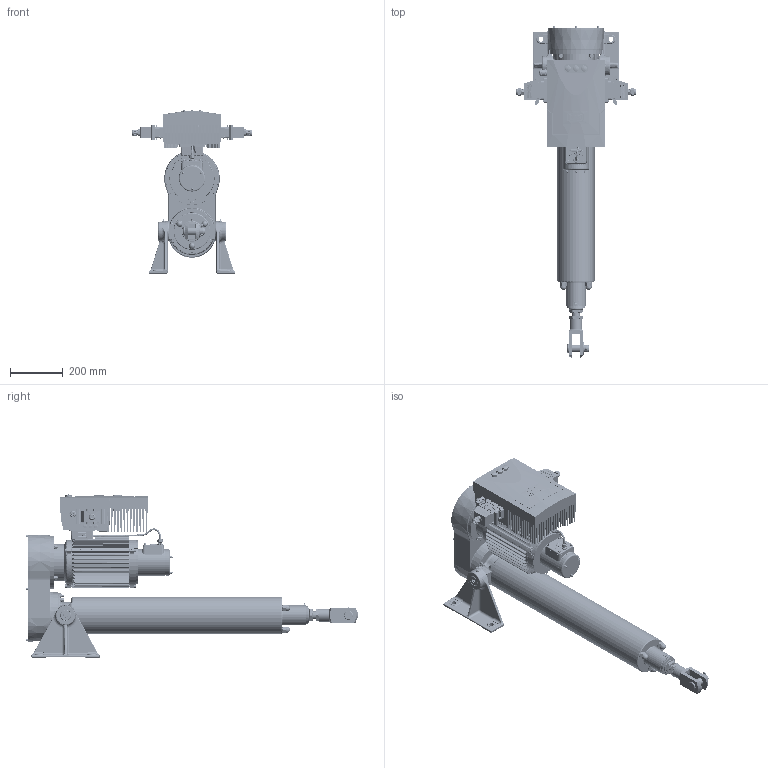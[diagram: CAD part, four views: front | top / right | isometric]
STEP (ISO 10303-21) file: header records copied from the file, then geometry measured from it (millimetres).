
FILE_DESCRIPTION( ( '153-599-4' ), '1' );
FILE_NAME( 'C:/daten/bearbeitung katalogbilder/RBs rendern/austausch pomplun/mit identnr/T1C6-RM-0600-160-252-7.stp', 'Unknown', ( 'Christoph Hahmann' ), ( 'RACO-ELEKTRO-MASCHINEN GmbH' ), 'PSStep 17.0.49', 'Solid Edge ST 7', ' ' );
FILE_SCHEMA( ( 'AUTOMOTIVE_DESIGN { 1 0 10303 214 1 1 1 1 }' ) );
Length unit declared in the file: millimetre
Products named in the file (19): Assem1; 03.01-06 kpl; 02.14-06-0600; Kabel zu Motor 100LX8-100L4; 01.15-06-0600; 02.01-06 kpl; 10-100-990-7; 01.14-06 kpl2; 01.01-06 Gabelkopf; 10x40-156-797-7; Adapterplatte für 5,5kW; 03.65-06-7; 12.00-06 kpl.; 10.5-100-529-4; 100LX8-100L4-141-971-4 mit Adapter; 10-101-443-9; 157-716-6-2; BG3-155-451-4-kpl; Gehäuse A2- CAN
Assembly tree (31 placements, depth 2):
  Assem1
    03.01-06 kpl
    02.14-06-0600
    Kabel zu Motor 100LX8-100L4
    01.15-06-0600
    02.01-06 kpl
    10-100-990-7  x4
    01.14-06 kpl2
    01.01-06 Gabelkopf
    10x40-156-797-7  x4
    Adapterplatte für 5,5kW
    03.65-06-7  x2
    12.00-06 kpl.
    10.5-100-529-4  x4
    100LX8-100L4-141-971-4 mit Adapter
    10-101-443-9  x4
    157-716-6-2
    BG3-155-451-4-kpl
    Gehäuse A2- CAN
Bounding box: 454.49 x 1255.6 x 617.05 mm (x, y, z)
Surface area: 3187590.9 mm2 (no closed solid volume)
Topology: 0 solids, 10320 shells, 10336 faces, 51856 edges, 50791 vertices
Faces by surface type: plane 5382, cylinder 2556, cone 861, bspline 767, torus 461, sphere 282, extrusion 22, revolution 5
Full cylindrical faces by diameter (mm): 1.6 x2, 2 x1, 2.6 x1, 3 x31, 3.141 x8, 3.242 x24, 4 x22, 4.134 x16, 4.4 x8, 4.5 x12, 4.917 x4, 5 x32, 5.3 x3, 5.5 x17, 5.7 x7, 6.466 x6, 6.647 x12, 7 x15, 7.5 x3, 7.6 x8, 8 x26, 8.15 x1, 8.16 x4, 8.2 x1, 8.376 x4, 8.4 x2, 8.5 x4, 9 x19, 9.15 x7, 10 x11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
Entity records: 731703 total; most frequent: CARTESIAN_POINT 282057, DIRECTION 78241, VERTEX_POINT 48994, ORIENTED_EDGE 48934, EDGE_CURVE 48934, VECTOR 26872, LINE 26850, AXIS2_PLACEMENT_3D 25682
